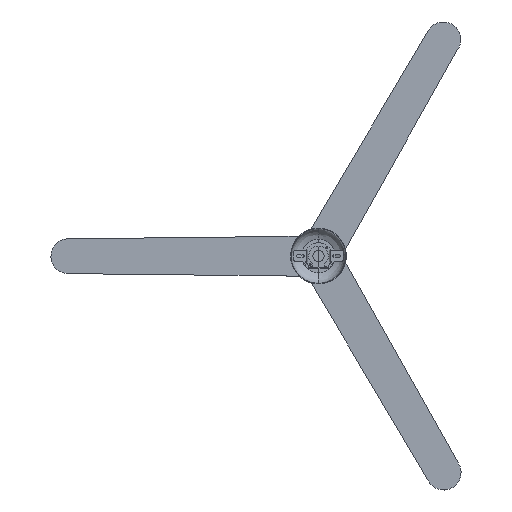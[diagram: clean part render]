
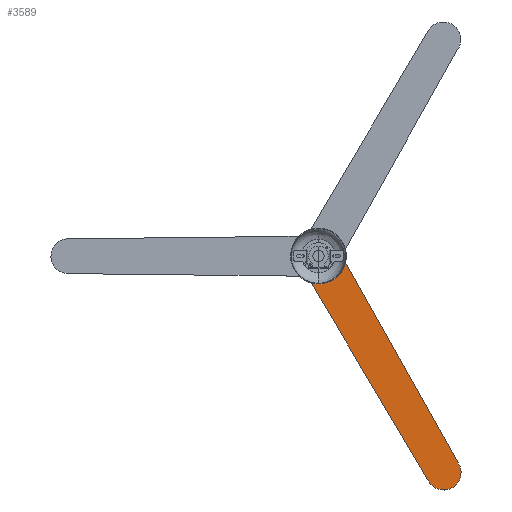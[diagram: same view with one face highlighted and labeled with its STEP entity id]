
A CAD part, top view. The second image highlights one B-rep face of the part: STEP entity #3589.
In plain terms, the highlighted planar face has unit normal (0, -0.001, 1) as drawn and (0, 0, -1) by its records, which use the part's own axes.
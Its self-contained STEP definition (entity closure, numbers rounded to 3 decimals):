
#280=TRIMMED_CURVE($,#611,(#14155),(#14156),.T.,.CARTESIAN.);
#611=CIRCLE('',#11022,40.836);
#3589=ADVANCED_FACE('',(#3851),#9652,.T.);
#3851=FACE_OUTER_BOUND('',#4127,.T.);
#4127=EDGE_LOOP('',(#4837,#4838,#4839,#4840));
#4837=ORIENTED_EDGE('',*,*,#6251,.T.);
#4838=ORIENTED_EDGE('',*,*,#6252,.T.);
#4839=ORIENTED_EDGE('',*,*,#6253,.T.);
#4840=ORIENTED_EDGE('',*,*,#6254,.T.);
#6251=EDGE_CURVE('',#8728,#8729,#7526,.T.);
#6252=EDGE_CURVE('',#8729,#8730,#7527,.T.);
#6253=EDGE_CURVE('',#8730,#8731,#280,.T.);
#6254=EDGE_CURVE('',#8731,#8728,#7528,.T.);
#7526=B_SPLINE_CURVE_WITH_KNOTS('',1,(#14150,#14151),.UNSPECIFIED.,.F.,
 .F.,(2,2),(0.,93.391),.UNSPECIFIED.);
#7527=B_SPLINE_CURVE_WITH_KNOTS('',1,(#14152,#14153),.UNSPECIFIED.,.F.,
 .F.,(2,2),(0.,550.439),.UNSPECIFIED.);
#7528=B_SPLINE_CURVE_WITH_KNOTS('',1,(#14157,#14158),.UNSPECIFIED.,.F.,
 .F.,(2,2),(0.,552.715),.UNSPECIFIED.);
#8728=VERTEX_POINT('',#14146);
#8729=VERTEX_POINT('',#14147);
#8730=VERTEX_POINT('',#14148);
#8731=VERTEX_POINT('',#14149);
#9652=PLANE('',#11021);
#11021=AXIS2_PLACEMENT_3D('',#14145,#11731,$);
#11022=AXIS2_PLACEMENT_3D($,#14154,#11732,#11733);
#11731=DIRECTION('',(0.,0.,-1.));
#11732=DIRECTION('',(0.,0.,-1.));
#11733=DIRECTION('',(0.916,-0.401,0.));
#14145=CARTESIAN_POINT('',(-654.021,-446.493,184.665));
#14146=CARTESIAN_POINT('',(-55.088,-1.269,184.665));
#14147=CARTESIAN_POINT('',(25.627,-48.248,184.665));
#14148=CARTESIAN_POINT('',(-254.789,-521.904,184.665));
#14149=CARTESIAN_POINT('',(-326.205,-482.922,184.665));
#14150=CARTESIAN_POINT('',(-55.088,-1.269,184.665));
#14151=CARTESIAN_POINT('',(25.627,-48.248,184.665));
#14152=CARTESIAN_POINT('',(25.627,-48.248,184.665));
#14153=CARTESIAN_POINT('',(-254.789,-521.904,184.665));
#14154=CARTESIAN_POINT('',(-292.203,-505.538,184.665));
#14155=CARTESIAN_POINT('',(-254.789,-521.904,184.665));
#14156=CARTESIAN_POINT('',(-326.205,-482.922,184.665));
#14157=CARTESIAN_POINT('',(-326.205,-482.922,184.665));
#14158=CARTESIAN_POINT('',(-55.088,-1.269,184.665));
